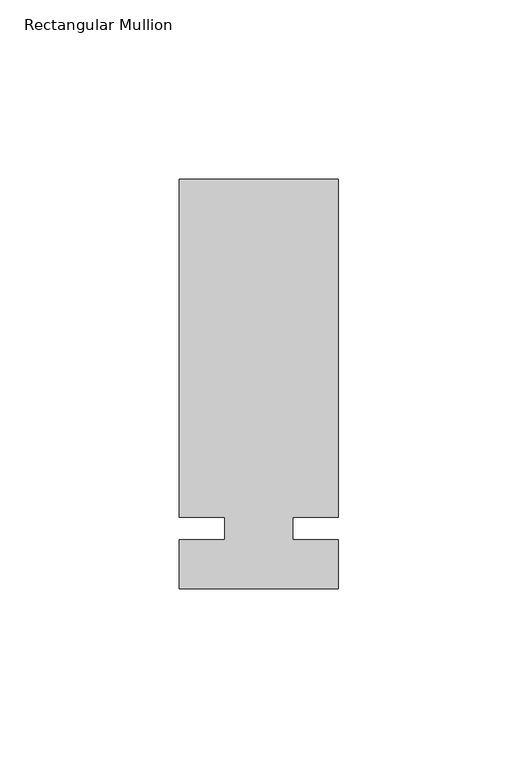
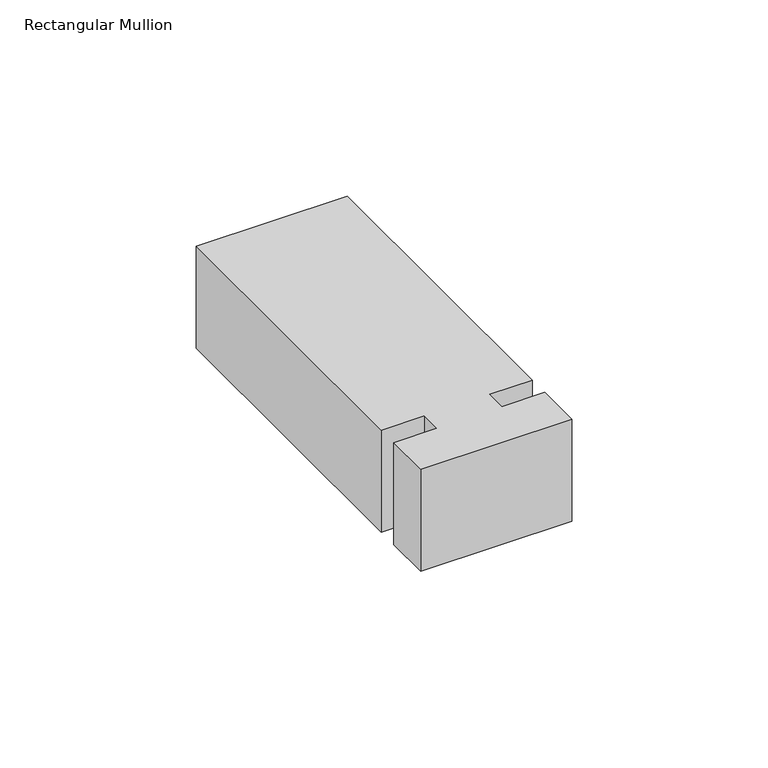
"""IFC4 building model written with IfcOpenShell, lengths in millimetres: member geometry, Rectangular Mullion : Kawneer-TRIFAB_VG_450_BACK_SB_Vertical."""

from ifc_helpers import new_model, si_unit, frame, origin, place, context, project, spatial, polyline, outline, extrude, source, transform, mapped, element, save


def rectangular_mullion_1c6565c6(model_context):
    return source(origin(), model_context, "Body", "SweptSolid", [
        extrude(outline(polyline([(22.225, -16.8532346), (-22.225, -16.8532346), (-22.225, -3.175), (-9.525, -3.175), (-9.525, 3.175), (-22.225, 3.175), (-22.225, 97.4467654), (22.225, 97.4467654), (22.225, 3.175), (9.5232296, 3.175), (9.5232296, -3.175), (22.225, -3.175), (22.225, -16.8532346)])), frame((0.0, 0.0, -31.75), z_axis=(0.0, 0.0, 1.0), x_axis=(1.0, 0.0, 0.0)), (0.0, 0.0, 1.0), 31.75),
    ])


if __name__ == "__main__":
    model = new_model("IFC4")
    model_context = context("Model", 3, world=origin())
    ifc_project = project(units=[si_unit("LENGTHUNIT", "METRE", prefix="MILLI")], contexts=[model_context])
    site = spatial("IfcSite", under=ifc_project)
    building = spatial("IfcBuilding", under=site)
    placement = place(None, origin())
    rectangular_mullion_shape = rectangular_mullion_1c6565c6(model_context)
    element("IfcMember", 1, ObjectType="Rectangular Mullion : Kawneer-TRIFAB_VG_450_BACK_SB_Vertical", at=placement, inside=building, context=model_context, shape_type="MappedRepresentation", body=[
        mapped(rectangular_mullion_shape, transform((0.0, 0.0, 0.0), x_axis=(1.0, 0.0, 0.0), y_axis=(0.0, 1.0, 0.0), z_axis=(0.0, 0.0, 1.0))),
    ])
    save(model, "model.ifc")
